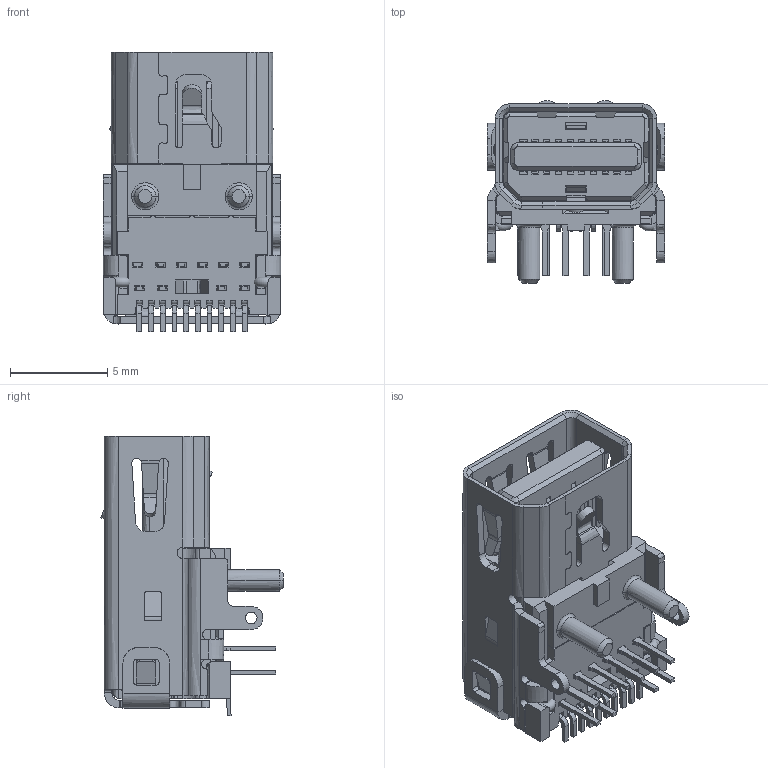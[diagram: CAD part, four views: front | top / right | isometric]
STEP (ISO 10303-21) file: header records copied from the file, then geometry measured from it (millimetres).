
FILE_DESCRIPTION((''),'2;1');
FILE_NAME('38MINIDP_ASM','2014-11-14T',('wjt'),(''),'PRO/ENGINEER BY PARAMETRIC TECHNOLOGY CORPORATION, 2008400','PRO/ENGINEER BY PARAMETRIC TECHNOLOGY CORPORATION, 2008400','');
FILE_SCHEMA(('CONFIG_CONTROL_DESIGN'));
Length unit declared in the file: millimetre
Products named in the file (27): MSBR-27_; MSBR-26_; MSBR-25_; MSBR-24_; MSBR-22_; MSBR-21_; MSBR-20_; MSBR-19_; MSBR-18_; MSBR-17_; MSBR-16_; MSBR-15_; MSBR-14_; MSBR-13_; MSBR-12_; MSBR-11_; MSBR-10_; MSBR-9_; MSBR-8_; MSBR-7_; MSBR-6_; MSBR-5_; MSBR-4_; MSBR-3_; MSBR-2_; MSBR-1_; 38MINIDP_ASM
Assembly tree (26 placements, depth 2):
  38MINIDP_ASM
    MSBR-27_
    MSBR-26_
    MSBR-25_
    MSBR-24_
    MSBR-22_
    MSBR-21_
    MSBR-20_
    MSBR-19_
    MSBR-18_
    MSBR-17_
    MSBR-16_
    MSBR-15_
    MSBR-14_
    MSBR-13_
    MSBR-12_
    MSBR-11_
    MSBR-10_
    MSBR-9_
    MSBR-8_
    MSBR-7_
    MSBR-6_
    MSBR-5_
    MSBR-4_
    MSBR-3_
    MSBR-2_
    MSBR-1_
Bounding box: 9.1 x 9.37 x 14.35 mm (x, y, z)
Surface area: 2017.9 mm2 (no closed solid volume)
Topology: 0 solids, 0 shells, 2558 faces, 13978 edges, 13976 vertices
Faces by surface type: bspline 2552, torus 6
Entity records: 190271 total; most frequent: CARTESIAN_POINT 60427, DIRECTION 20476, TRIMMED_CURVE 19118, VECTOR 17878, LINE 17878, DEFINITIONAL_REPRESENTATION 13974, PCURVE 13974, COMPOSITE_CURVE_SEGMENT 13974
